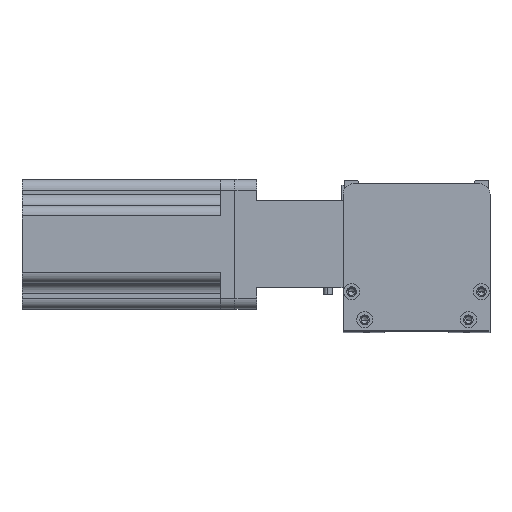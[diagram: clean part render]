
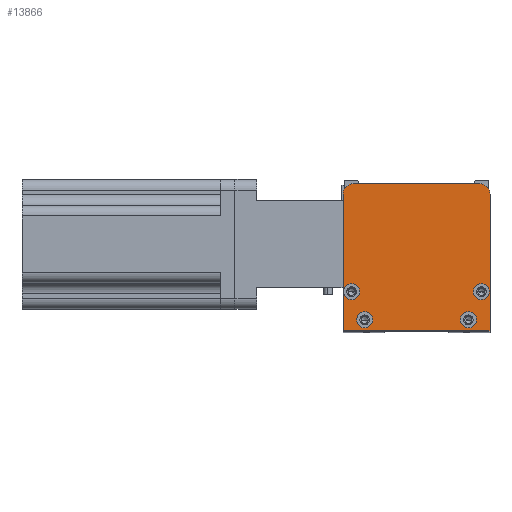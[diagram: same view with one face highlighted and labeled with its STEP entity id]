
A CAD part, top view. The second image highlights one B-rep face of the part: STEP entity #13866.
In plain terms, the highlighted planar face has unit normal (0, 0, 1) as drawn and (0, 0, -1) by its records, which use the part's own axes.
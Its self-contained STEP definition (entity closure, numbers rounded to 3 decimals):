
#108 = DIRECTION ( 'NONE',  ( -1., 0., 0. ) ) ;
#234 = EDGE_CURVE ( 'NONE', #21591, #11775, #335, .T. ) ;
#335 = CIRCLE ( 'NONE', #11794, 3.75 ) ;
#352 = DIRECTION ( 'NONE',  ( -1., 0., 0. ) ) ;
#385 = DIRECTION ( 'NONE',  ( 0., 0., 1. ) ) ;
#391 = DIRECTION ( 'NONE',  ( 1., 0., 0. ) ) ;
#419 = FACE_BOUND ( 'NONE', #5467, .T. ) ;
#424 = EDGE_CURVE ( 'NONE', #14940, #4931, #21621, .T. ) ;
#457 = DIRECTION ( 'NONE',  ( 0., 0., -1. ) ) ;
#624 = CARTESIAN_POINT ( 'NONE',  ( 10., 5., 0. ) ) ;
#744 = CARTESIAN_POINT ( 'NONE',  ( 58., 5., 0. ) ) ;
#992 = DIRECTION ( 'NONE',  ( -1., 0., 0. ) ) ;
#1094 = CIRCLE ( 'NONE', #2534, 5. ) ;
#1388 = AXIS2_PLACEMENT_3D ( 'NONE', #7327, #20230, #9079 ) ;
#1462 = EDGE_CURVE ( 'NONE', #14940, #13809, #7681, .T. ) ;
#1748 = CARTESIAN_POINT ( 'NONE',  ( 7.75, 18., 0. ) ) ;
#1791 = VERTEX_POINT ( 'NONE', #8253 ) ;
#1912 = VERTEX_POINT ( 'NONE', #17372 ) ;
#1957 = ORIENTED_EDGE ( 'NONE', *, *, #14037, .F. ) ;
#2013 = ORIENTED_EDGE ( 'NONE', *, *, #1462, .T. ) ;
#2411 = AXIS2_PLACEMENT_3D ( 'NONE', #14887, #17015, #5206 ) ;
#2488 = DIRECTION ( 'NONE',  ( -1., 0., 0. ) ) ;
#2508 = ORIENTED_EDGE ( 'NONE', *, *, #7127, .F. ) ;
#2534 = AXIS2_PLACEMENT_3D ( 'NONE', #21246, #10054, #23128 ) ;
#2585 = EDGE_CURVE ( 'NONE', #1912, #3372, #17653, .T. ) ;
#2655 = VERTEX_POINT ( 'NONE', #4008 ) ;
#3120 = AXIS2_PLACEMENT_3D ( 'NONE', #744, #13196, #2488 ) ;
#3372 = VERTEX_POINT ( 'NONE', #14866 ) ;
#3387 = AXIS2_PLACEMENT_3D ( 'NONE', #10995, #385, #12835 ) ;
#3442 = FACE_BOUND ( 'NONE', #4910, .T. ) ;
#3629 = CIRCLE ( 'NONE', #1388, 3.75 ) ;
#4008 = CARTESIAN_POINT ( 'NONE',  ( 68., 0., 0. ) ) ;
#4103 = EDGE_CURVE ( 'NONE', #4270, #15096, #19565, .T. ) ;
#4135 = VERTEX_POINT ( 'NONE', #6163 ) ;
#4234 = AXIS2_PLACEMENT_3D ( 'NONE', #624, #457, #352 ) ;
#4260 = CARTESIAN_POINT ( 'NONE',  ( 58., 5., 0. ) ) ;
#4270 = VERTEX_POINT ( 'NONE', #21848 ) ;
#4664 = AXIS2_PLACEMENT_3D ( 'NONE', #21921, #10707, #108 ) ;
#4668 = ORIENTED_EDGE ( 'NONE', *, *, #2585, .F. ) ;
#4910 = EDGE_LOOP ( 'NONE', ( #9439, #1957 ) ) ;
#4931 = VERTEX_POINT ( 'NONE', #12870 ) ;
#4981 = ORIENTED_EDGE ( 'NONE', *, *, #9288, .F. ) ;
#5206 = DIRECTION ( 'NONE',  ( 1., 0., 0. ) ) ;
#5210 = EDGE_CURVE ( 'NONE', #1791, #8006, #1094, .T. ) ;
#5333 = ORIENTED_EDGE ( 'NONE', *, *, #4103, .F. ) ;
#5467 = EDGE_LOOP ( 'NONE', ( #4668, #2508 ) ) ;
#5759 = CARTESIAN_POINT ( 'NONE',  ( 68., 0., 0. ) ) ;
#5819 = CARTESIAN_POINT ( 'NONE',  ( 64., 18., 0. ) ) ;
#5965 = EDGE_CURVE ( 'NONE', #4931, #2655, #12112, .T. ) ;
#6019 = CIRCLE ( 'NONE', #21290, 3.75 ) ;
#6063 = DIRECTION ( 'NONE',  ( -1., 0., 0. ) ) ;
#6082 = EDGE_CURVE ( 'NONE', #15096, #4270, #9840, .T. ) ;
#6163 = CARTESIAN_POINT ( 'NONE',  ( 0.25, 18., 0. ) ) ;
#6608 = CARTESIAN_POINT ( 'NONE',  ( 68., 63., 0. ) ) ;
#7123 = CARTESIAN_POINT ( 'NONE',  ( 64., 18., 0. ) ) ;
#7127 = EDGE_CURVE ( 'NONE', #3372, #1912, #3629, .T. ) ;
#7157 = CARTESIAN_POINT ( 'NONE',  ( 0., 63., 0. ) ) ;
#7280 = CARTESIAN_POINT ( 'NONE',  ( 5., 68., 0. ) ) ;
#7327 = CARTESIAN_POINT ( 'NONE',  ( 10., 5., 0. ) ) ;
#7570 = DIRECTION ( 'NONE',  ( -1., 0., 0. ) ) ;
#7681 = CIRCLE ( 'NONE', #2411, 5. ) ;
#8006 = VERTEX_POINT ( 'NONE', #6608 ) ;
#8187 = ORIENTED_EDGE ( 'NONE', *, *, #23257, .F. ) ;
#8253 = CARTESIAN_POINT ( 'NONE',  ( 63., 68., 0. ) ) ;
#8286 = ORIENTED_EDGE ( 'NONE', *, *, #6082, .F. ) ;
#9079 = DIRECTION ( 'NONE',  ( -1., 0., 0. ) ) ;
#9288 = EDGE_CURVE ( 'NONE', #2655, #8006, #16835, .T. ) ;
#9439 = ORIENTED_EDGE ( 'NONE', *, *, #19674, .F. ) ;
#9804 = DIRECTION ( 'NONE',  ( 0., 0., -1. ) ) ;
#9840 = CIRCLE ( 'NONE', #11955, 3.75 ) ;
#9944 = DIRECTION ( 'NONE',  ( 0., 0., -1. ) ) ;
#10054 = DIRECTION ( 'NONE',  ( 0., 0., -1. ) ) ;
#10707 = DIRECTION ( 'NONE',  ( 0., 0., -1. ) ) ;
#10995 = CARTESIAN_POINT ( 'NONE',  ( 0., 0., 0. ) ) ;
#11034 = ORIENTED_EDGE ( 'NONE', *, *, #16008, .F. ) ;
#11677 = VERTEX_POINT ( 'NONE', #1748 ) ;
#11775 = VERTEX_POINT ( 'NONE', #22179 ) ;
#11794 = AXIS2_PLACEMENT_3D ( 'NONE', #7123, #9944, #23590 ) ;
#11955 = AXIS2_PLACEMENT_3D ( 'NONE', #4260, #17071, #6063 ) ;
#11992 = VECTOR ( 'NONE', #992, 1000. ) ;
#12069 = VECTOR ( 'NONE', #391, 1000. ) ;
#12112 = LINE ( 'NONE', #5759, #12069 ) ;
#12143 = CARTESIAN_POINT ( 'NONE',  ( 68., 0., 0. ) ) ;
#12576 = LINE ( 'NONE', #15377, #11992 ) ;
#12835 = DIRECTION ( 'NONE',  ( 1., 0., 0. ) ) ;
#12870 = CARTESIAN_POINT ( 'NONE',  ( 0., 0., 0. ) ) ;
#13196 = DIRECTION ( 'NONE',  ( 0., 0., -1. ) ) ;
#13809 = VERTEX_POINT ( 'NONE', #7280 ) ;
#13829 = CARTESIAN_POINT ( 'NONE',  ( 0., 0., 0. ) ) ;
#13866 = ADVANCED_FACE ( 'NONE', ( #18022, #3442, #419, #22362, #17478 ), #16659, .F. ) ;
#14037 = EDGE_CURVE ( 'NONE', #11677, #4135, #18896, .T. ) ;
#14275 = AXIS2_PLACEMENT_3D ( 'NONE', #20982, #9804, #22840 ) ;
#14729 = CARTESIAN_POINT ( 'NONE',  ( 54.25, 5., 0. ) ) ;
#14764 = EDGE_LOOP ( 'NONE', ( #8286, #5333 ) ) ;
#14866 = CARTESIAN_POINT ( 'NONE',  ( 13.75, 5., 0. ) ) ;
#14887 = CARTESIAN_POINT ( 'NONE',  ( 5., 63., 0. ) ) ;
#14940 = VERTEX_POINT ( 'NONE', #7157 ) ;
#15096 = VERTEX_POINT ( 'NONE', #14729 ) ;
#15377 = CARTESIAN_POINT ( 'NONE',  ( 68., 68., 0. ) ) ;
#15716 = DIRECTION ( 'NONE',  ( 0., -1., 0. ) ) ;
#16008 = EDGE_CURVE ( 'NONE', #1791, #13809, #12576, .T. ) ;
#16019 = ORIENTED_EDGE ( 'NONE', *, *, #5965, .F. ) ;
#16659 = PLANE ( 'NONE',  #3387 ) ;
#16835 = LINE ( 'NONE', #12143, #16880 ) ;
#16880 = VECTOR ( 'NONE', #21577, 1000. ) ;
#17015 = DIRECTION ( 'NONE',  ( 0., 0., -1. ) ) ;
#17071 = DIRECTION ( 'NONE',  ( 0., 0., -1. ) ) ;
#17372 = CARTESIAN_POINT ( 'NONE',  ( 6.25, 5., 0. ) ) ;
#17478 = FACE_OUTER_BOUND ( 'NONE', #21642, .T. ) ;
#17653 = CIRCLE ( 'NONE', #4234, 3.75 ) ;
#17745 = EDGE_LOOP ( 'NONE', ( #8187, #23427 ) ) ;
#17754 = ORIENTED_EDGE ( 'NONE', *, *, #424, .F. ) ;
#18022 = FACE_BOUND ( 'NONE', #17745, .T. ) ;
#18644 = DIRECTION ( 'NONE',  ( 0., 0., -1. ) ) ;
#18896 = CIRCLE ( 'NONE', #14275, 3.75 ) ;
#19565 = CIRCLE ( 'NONE', #3120, 3.75 ) ;
#19674 = EDGE_CURVE ( 'NONE', #4135, #11677, #22220, .T. ) ;
#20230 = DIRECTION ( 'NONE',  ( 0., 0., -1. ) ) ;
#20982 = CARTESIAN_POINT ( 'NONE',  ( 4., 18., 0. ) ) ;
#21246 = CARTESIAN_POINT ( 'NONE',  ( 63., 63., 0. ) ) ;
#21290 = AXIS2_PLACEMENT_3D ( 'NONE', #5819, #18644, #7570 ) ;
#21518 = VECTOR ( 'NONE', #15716, 1000. ) ;
#21577 = DIRECTION ( 'NONE',  ( 0., 1., 0. ) ) ;
#21591 = VERTEX_POINT ( 'NONE', #22436 ) ;
#21621 = LINE ( 'NONE', #13829, #21518 ) ;
#21642 = EDGE_LOOP ( 'NONE', ( #17754, #2013, #11034, #21775, #4981, #16019 ) ) ;
#21775 = ORIENTED_EDGE ( 'NONE', *, *, #5210, .T. ) ;
#21848 = CARTESIAN_POINT ( 'NONE',  ( 61.75, 5., 0. ) ) ;
#21921 = CARTESIAN_POINT ( 'NONE',  ( 4., 18., 0. ) ) ;
#22179 = CARTESIAN_POINT ( 'NONE',  ( 60.25, 18., 0. ) ) ;
#22220 = CIRCLE ( 'NONE', #4664, 3.75 ) ;
#22362 = FACE_BOUND ( 'NONE', #14764, .T. ) ;
#22436 = CARTESIAN_POINT ( 'NONE',  ( 67.75, 18., 0. ) ) ;
#22840 = DIRECTION ( 'NONE',  ( -1., 0., 0. ) ) ;
#23128 = DIRECTION ( 'NONE',  ( 1., 0., 0. ) ) ;
#23257 = EDGE_CURVE ( 'NONE', #11775, #21591, #6019, .T. ) ;
#23427 = ORIENTED_EDGE ( 'NONE', *, *, #234, .F. ) ;
#23590 = DIRECTION ( 'NONE',  ( -1., 0., 0. ) ) ;
